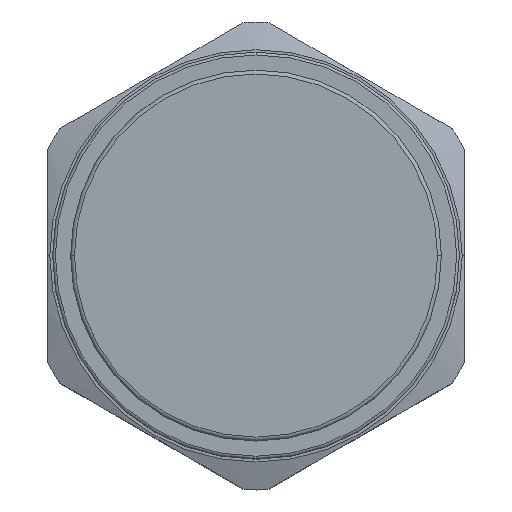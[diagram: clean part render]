
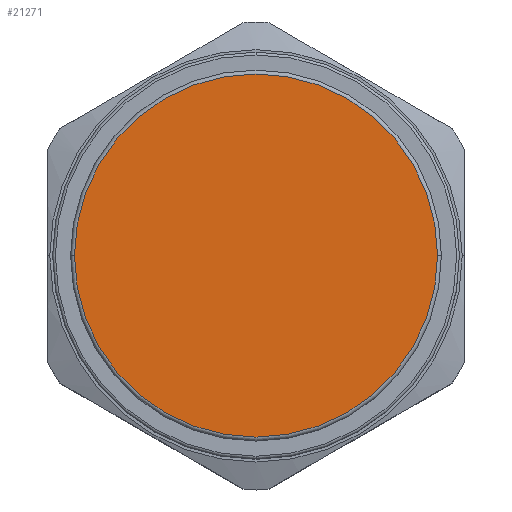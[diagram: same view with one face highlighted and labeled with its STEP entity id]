
A CAD part, top view. The second image highlights one B-rep face of the part: STEP entity #21271.
In plain terms, the highlighted planar face has unit normal (0, 0, 1).
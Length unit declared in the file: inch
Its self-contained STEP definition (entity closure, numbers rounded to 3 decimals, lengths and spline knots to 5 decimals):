
#1130 = ORIENTED_EDGE ( 'NONE', *, *, #24170, .T. ) ;
#1642 = VERTEX_POINT ( 'NONE', #23870 ) ;
#2411 = AXIS2_PLACEMENT_3D ( 'NONE', #19765, #21822, #10444 ) ;
#3688 = EDGE_CURVE ( 'NONE', #1642, #18974, #16989, .T. ) ;
#6285 = ORIENTED_EDGE ( 'NONE', *, *, #3688, .T. ) ;
#7734 = CARTESIAN_POINT ( 'NONE',  ( 0., 0., 1.286 ) ) ;
#7755 = DIRECTION ( 'NONE',  ( 0., 0., 1. ) ) ;
#9627 = DIRECTION ( 'NONE',  ( 1., 0., 0. ) ) ;
#10444 = DIRECTION ( 'NONE',  ( -1., 0., 0. ) ) ;
#13579 = EDGE_LOOP ( 'NONE', ( #1130, #6285 ) ) ;
#14954 = CARTESIAN_POINT ( 'NONE',  ( 0.328, 0., 1.286 ) ) ;
#16989 = CIRCLE ( 'NONE', #21080, 0.328 ) ;
#18974 = VERTEX_POINT ( 'NONE', #14954 ) ;
#18984 = FACE_OUTER_BOUND ( 'NONE', #13579, .T. ) ;
#19144 = CARTESIAN_POINT ( 'NONE',  ( 0., 0., 1.286 ) ) ;
#19765 = CARTESIAN_POINT ( 'NONE',  ( -0.328, 0., 1.286 ) ) ;
#19931 = PLANE ( 'NONE',  #2411 ) ;
#21012 = CIRCLE ( 'NONE', #22255, 0.328 ) ;
#21022 = DIRECTION ( 'NONE',  ( 0., 0., 1. ) ) ;
#21045 = DIRECTION ( 'NONE',  ( 1., 0., 0. ) ) ;
#21080 = AXIS2_PLACEMENT_3D ( 'NONE', #7734, #21022, #9627 ) ;
#21271 = ADVANCED_FACE ( 'NONE', ( #18984 ), #19931, .F. ) ;
#21822 = DIRECTION ( 'NONE',  ( 0., 0., -1. ) ) ;
#22255 = AXIS2_PLACEMENT_3D ( 'NONE', #19144, #7755, #21045 ) ;
#23870 = CARTESIAN_POINT ( 'NONE',  ( -0.328, 0., 1.286 ) ) ;
#24170 = EDGE_CURVE ( 'NONE', #18974, #1642, #21012, .T. ) ;
